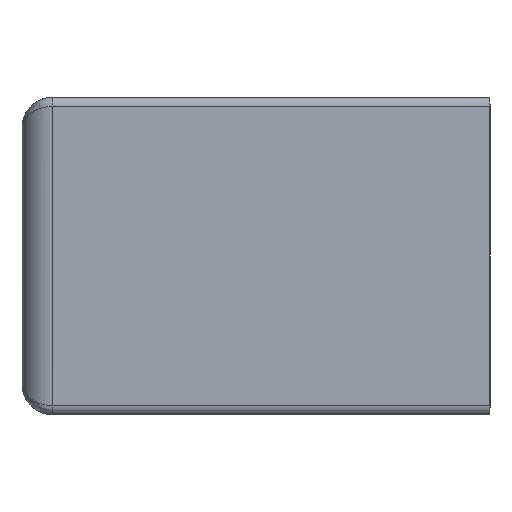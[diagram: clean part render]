
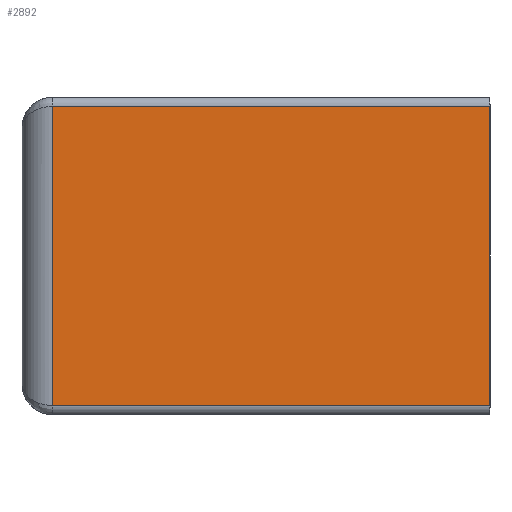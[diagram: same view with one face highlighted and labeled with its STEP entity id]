
A CAD part, front view. The second image highlights one B-rep face of the part: STEP entity #2892.
In plain terms, the highlighted planar face has unit normal (0, -1, 0).
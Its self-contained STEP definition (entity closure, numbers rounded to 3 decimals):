
#232 = VERTEX_POINT ( 'NONE', #598 ) ;
#270 = LINE ( 'NONE', #721, #3301 ) ;
#598 = CARTESIAN_POINT ( 'NONE',  ( -7.25, -14., 9.65 ) ) ;
#721 = CARTESIAN_POINT ( 'NONE',  ( -7.25, -14., 10.25 ) ) ;
#875 = VERTEX_POINT ( 'NONE', #3332 ) ;
#936 = EDGE_CURVE ( 'NONE', #232, #4246, #270, .T. ) ;
#975 = CARTESIAN_POINT ( 'NONE',  ( 20.95, -14., -9.65 ) ) ;
#988 = EDGE_CURVE ( 'NONE', #875, #232, #3053, .T. ) ;
#1128 = CARTESIAN_POINT ( 'NONE',  ( 20.95, -14., 0. ) ) ;
#1371 = ORIENTED_EDGE ( 'NONE', *, *, #3529, .F. ) ;
#1425 = EDGE_CURVE ( 'NONE', #2289, #875, #2133, .T. ) ;
#1453 = ORIENTED_EDGE ( 'NONE', *, *, #936, .T. ) ;
#1497 = DIRECTION ( 'NONE',  ( 0., 0., -1. ) ) ;
#1819 = DIRECTION ( 'NONE',  ( 0., 0., -1. ) ) ;
#1889 = VECTOR ( 'NONE', #2319, 1000. ) ;
#2133 = LINE ( 'NONE', #1128, #1889 ) ;
#2189 = CARTESIAN_POINT ( 'NONE',  ( -9.25, -14., 10.25 ) ) ;
#2289 = VERTEX_POINT ( 'NONE', #975 ) ;
#2319 = DIRECTION ( 'NONE',  ( 0., 0., 1. ) ) ;
#2417 = CARTESIAN_POINT ( 'NONE',  ( -7.25, -14., -9.65 ) ) ;
#2527 = PLANE ( 'NONE',  #4202 ) ;
#2892 = ADVANCED_FACE ( 'NONE', ( #3147 ), #2527, .T. ) ;
#2937 = ORIENTED_EDGE ( 'NONE', *, *, #988, .T. ) ;
#3053 = LINE ( 'NONE', #3855, #4723 ) ;
#3147 = FACE_OUTER_BOUND ( 'NONE', #3455, .T. ) ;
#3301 = VECTOR ( 'NONE', #1497, 1000. ) ;
#3332 = CARTESIAN_POINT ( 'NONE',  ( 20.95, -14., 9.65 ) ) ;
#3354 = DIRECTION ( 'NONE',  ( 0., -1., 0. ) ) ;
#3455 = EDGE_LOOP ( 'NONE', ( #3740, #2937, #1453, #1371 ) ) ;
#3529 = EDGE_CURVE ( 'NONE', #2289, #4246, #4392, .T. ) ;
#3740 = ORIENTED_EDGE ( 'NONE', *, *, #1425, .T. ) ;
#3855 = CARTESIAN_POINT ( 'NONE',  ( -9.25, -14., 9.65 ) ) ;
#4004 = CARTESIAN_POINT ( 'NONE',  ( -9.25, -14., -9.65 ) ) ;
#4202 = AXIS2_PLACEMENT_3D ( 'NONE', #2189, #3354, #1819 ) ;
#4246 = VERTEX_POINT ( 'NONE', #2417 ) ;
#4271 = VECTOR ( 'NONE', #4712, 1000. ) ;
#4281 = DIRECTION ( 'NONE',  ( -1., 0., 0. ) ) ;
#4392 = LINE ( 'NONE', #4004, #4271 ) ;
#4712 = DIRECTION ( 'NONE',  ( -1., 0., 0. ) ) ;
#4723 = VECTOR ( 'NONE', #4281, 1000. ) ;
